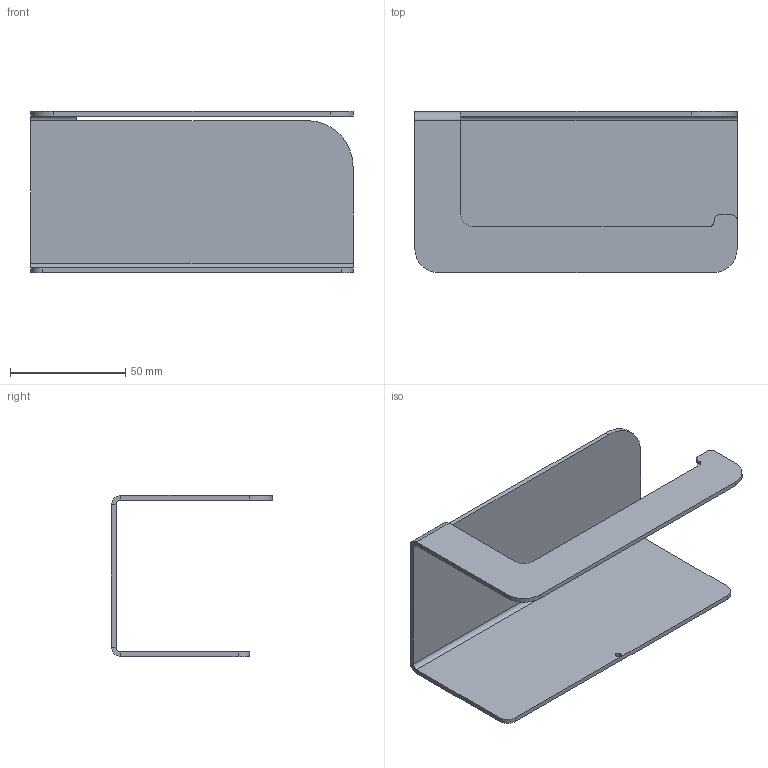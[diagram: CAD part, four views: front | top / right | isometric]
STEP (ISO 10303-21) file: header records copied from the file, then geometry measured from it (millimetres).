
FILE_DESCRIPTION (( 'STEP AP203' ), '1' );
FILE_NAME ('Uchwyt na papier przyklejany prawy.STEP', '2022-02-24T12:18:33', ( '' ), ( '' ), 'SwSTEP 2.0', 'SolidWorks 2021', '' );
FILE_SCHEMA (( 'CONFIG_CONTROL_DESIGN' ));
Length unit declared in the file: millimetre
Products named in the file (1): Uchwyt na papier przyklejany prawy
Bounding box: 140 x 70 x 70 mm (x, y, z)
Volume: 41808.2 mm3; surface area: 43605.2 mm2
Topology: 1 solids, 1 shells, 38 faces, 92 edges, 56 vertices
Faces by surface type: plane 23, cylinder 15
Entity records: 1179 total; most frequent: DIRECTION 200, CARTESIAN_POINT 187, ORIENTED_EDGE 184, EDGE_CURVE 92, AXIS2_PLACEMENT_3D 69, VECTOR 62, LINE 62, VERTEX_POINT 56
